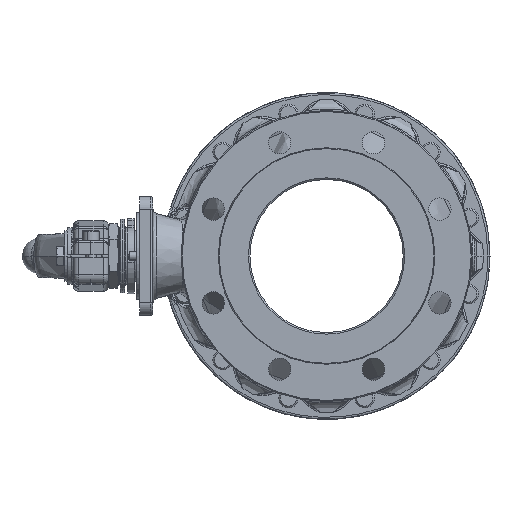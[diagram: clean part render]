
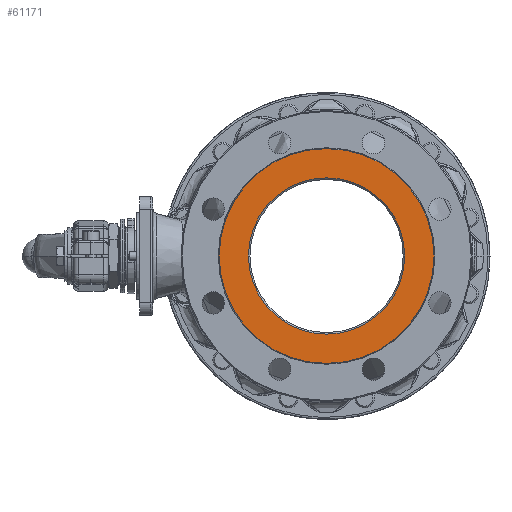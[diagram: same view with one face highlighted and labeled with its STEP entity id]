
A CAD part, left-side view. The second image highlights one B-rep face of the part: STEP entity #61171.
In plain terms, the highlighted planar face has unit normal (-1, 0, 0) as drawn and (0, -1, 0) by its records, which use the part's own axes.
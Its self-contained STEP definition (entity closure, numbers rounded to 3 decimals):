
#2583 = ORIENTED_EDGE ( 'NONE', *, *, #12972, .T. ) ;
#4800 = CIRCLE ( 'NONE', #40859, 105.196 ) ;
#5338 = ORIENTED_EDGE ( 'NONE', *, *, #54726, .F. ) ;
#5941 = CIRCLE ( 'NONE', #65390, 76.5 ) ;
#6068 = DIRECTION ( 'NONE',  ( 0., 0., -1. ) ) ;
#6306 = CARTESIAN_POINT ( 'NONE',  ( 0., -96.5, -13. ) ) ;
#10993 = VERTEX_POINT ( 'NONE', #22207 ) ;
#11089 = CARTESIAN_POINT ( 'NONE',  ( 0., -96.5, -13. ) ) ;
#12919 = AXIS2_PLACEMENT_3D ( 'NONE', #64224, #25570, #25330 ) ;
#12972 = EDGE_CURVE ( 'NONE', #13400, #17883, #4800, .T. ) ;
#13304 = PLANE ( 'NONE',  #32428 ) ;
#13400 = VERTEX_POINT ( 'NONE', #43961 ) ;
#17369 = DIRECTION ( 'NONE',  ( 0., -1., 0. ) ) ;
#17729 = CARTESIAN_POINT ( 'NONE',  ( 0., -96.5, 92.196 ) ) ;
#17883 = VERTEX_POINT ( 'NONE', #17729 ) ;
#18444 = DIRECTION ( 'NONE',  ( 0., -1., 0. ) ) ;
#21012 = CIRCLE ( 'NONE', #69815, 76.5 ) ;
#22207 = CARTESIAN_POINT ( 'NONE',  ( 0., -96.5, -89.5 ) ) ;
#25330 = DIRECTION ( 'NONE',  ( 0., 0., 1. ) ) ;
#25570 = DIRECTION ( 'NONE',  ( 0., -1., 0. ) ) ;
#31757 = EDGE_LOOP ( 'NONE', ( #5338, #40683 ) ) ;
#32428 = AXIS2_PLACEMENT_3D ( 'NONE', #69074, #46906, #57967 ) ;
#37318 = CARTESIAN_POINT ( 'NONE',  ( 0., -96.5, 63.5 ) ) ;
#40683 = ORIENTED_EDGE ( 'NONE', *, *, #43015, .F. ) ;
#40859 = AXIS2_PLACEMENT_3D ( 'NONE', #57552, #18444, #57049 ) ;
#41648 = FACE_BOUND ( 'NONE', #31757, .T. ) ;
#43015 = EDGE_CURVE ( 'NONE', #66144, #10993, #5941, .T. ) ;
#43961 = CARTESIAN_POINT ( 'NONE',  ( 0., -96.5, -118.196 ) ) ;
#46906 = DIRECTION ( 'NONE',  ( 0., -1., 0. ) ) ;
#54726 = EDGE_CURVE ( 'NONE', #10993, #66144, #21012, .T. ) ;
#55449 = ORIENTED_EDGE ( 'NONE', *, *, #55904, .T. ) ;
#55904 = EDGE_CURVE ( 'NONE', #17883, #13400, #63434, .T. ) ;
#57049 = DIRECTION ( 'NONE',  ( 0., 0., 1. ) ) ;
#57552 = CARTESIAN_POINT ( 'NONE',  ( 0., -96.5, -13. ) ) ;
#57967 = DIRECTION ( 'NONE',  ( 0., 0., -1. ) ) ;
#58027 = FACE_OUTER_BOUND ( 'NONE', #66883, .T. ) ;
#61171 = ADVANCED_FACE ( 'NONE', ( #41648, #58027 ), #13304, .T. ) ;
#63434 = CIRCLE ( 'NONE', #12919, 105.196 ) ;
#64224 = CARTESIAN_POINT ( 'NONE',  ( 0., -96.5, -13. ) ) ;
#65390 = AXIS2_PLACEMENT_3D ( 'NONE', #11089, #17369, #66159 ) ;
#66144 = VERTEX_POINT ( 'NONE', #37318 ) ;
#66159 = DIRECTION ( 'NONE',  ( 0., 0., -1. ) ) ;
#66883 = EDGE_LOOP ( 'NONE', ( #55449, #2583 ) ) ;
#66919 = DIRECTION ( 'NONE',  ( 0., -1., 0. ) ) ;
#69074 = CARTESIAN_POINT ( 'NONE',  ( 0., -96.5, -65.598 ) ) ;
#69815 = AXIS2_PLACEMENT_3D ( 'NONE', #6306, #66919, #6068 ) ;
